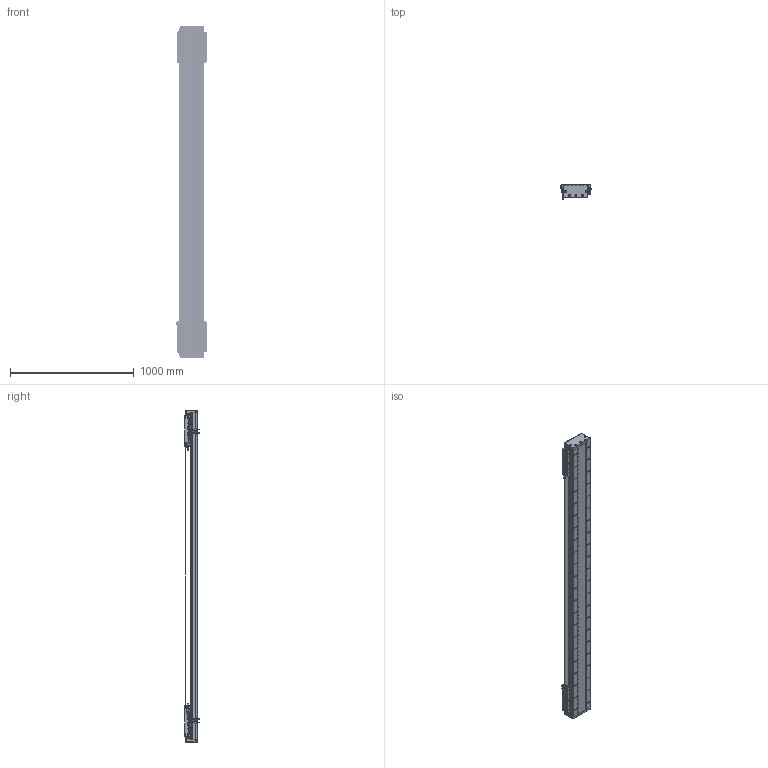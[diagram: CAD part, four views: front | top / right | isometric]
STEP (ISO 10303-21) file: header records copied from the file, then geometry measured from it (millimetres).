
FILE_DESCRIPTION (( 'STEP AP203' ), '1' );
FILE_NAME ('DA-C195-2-C3-T2060-C010-0.2 眻盄萇儂.STEP', '2025-08-15T00:46:43', ( '' ), ( '' ), 'SwSTEP 2.0', 'SolidWorks 2019', '' );
FILE_SCHEMA (( 'CONFIG_CONTROL_DESIGN' ));
Length unit declared in the file: millimetre
Products named in the file (19): DA165-GYP-00 光电感应片(默认); MS200 棠掑喜S315-T240; DA195詩湍郪璃; CU195-C3賑輸-俋楷; PM-Y65嫖萇羲壽郪璃; DKW-KGZ-ZJ-00 中间光电开关支架; DA-C195-GD-DB-H-00 傷啣; IU-CU195-L-00 菁釱(L2640); PM-T45ㄗ侂狟ㄘ; DKW-GYP-ZJ-00 笢潔嫖萇覜茼え; DA195詩湍菜輸; DA195詩湍嶺輸; 葩璃 DA95-GT-T-00; DKW168-HXJ-ZJ-00 笢潔滅袉砎蝶; DA95-HXJ-00 遣喳砎蝶; IU-CU195-L 菁釱絳寢; DA-C195-2-C3-T2060-C010-0.2 眻盄萇儂; DA195詩湍裔啣; LMT黍杅芛
Assembly tree (37 placements, depth 3):
  DA-C195-2-C3-T2060-C010-0.2 眻盄萇儂
    DA195詩湍郪璃
      DA195詩湍菜輸  x2
      DA195詩湍裔啣
      DA195詩湍嶺輸  x2
      DA95-HXJ-00 遣喳砎蝶  x8
      DA-C195-GD-DB-H-00 傷啣  x2
    IU-CU195-L 菁釱絳寢
      IU-CU195-L-00 菁釱(L2640)
      葩璃 DA95-GT-T-00  x4
    LMT黍杅芛  x2
    MS200 棠掑喜S315-T240
    PM-T45ㄗ侂狟ㄘ  x4
    DA165-GYP-00 光电感应片(默认)  x2
    PM-Y65嫖萇羲壽郪璃
    DKW168-HXJ-ZJ-00 笢潔滅袉砎蝶
    DKW-GYP-ZJ-00 笢潔嫖萇覜茼え
    DKW-KGZ-ZJ-00 中间光电开关支架
    CU195-C3賑輸-俋楷  x2
Bounding box: 258.2 x 115.45 x 2680 mm (x, y, z)
Volume: 17326275.1 mm3; surface area: 4969830.2 mm2
Topology: 154 solids, 218 shells, 6909 faces, 18495 edges, 11525 vertices
Faces by surface type: cylinder 3306, plane 2551, cone 884, torus 88, sphere 72, bspline 8
Entity records: 150615 total; most frequent: CARTESIAN_POINT 40293, ORIENTED_EDGE 23006, DIRECTION 22000, EDGE_CURVE 11503, AXIS2_PLACEMENT_3D 8101, VERTEX_POINT 7450, VECTOR 5798, LINE 5798
